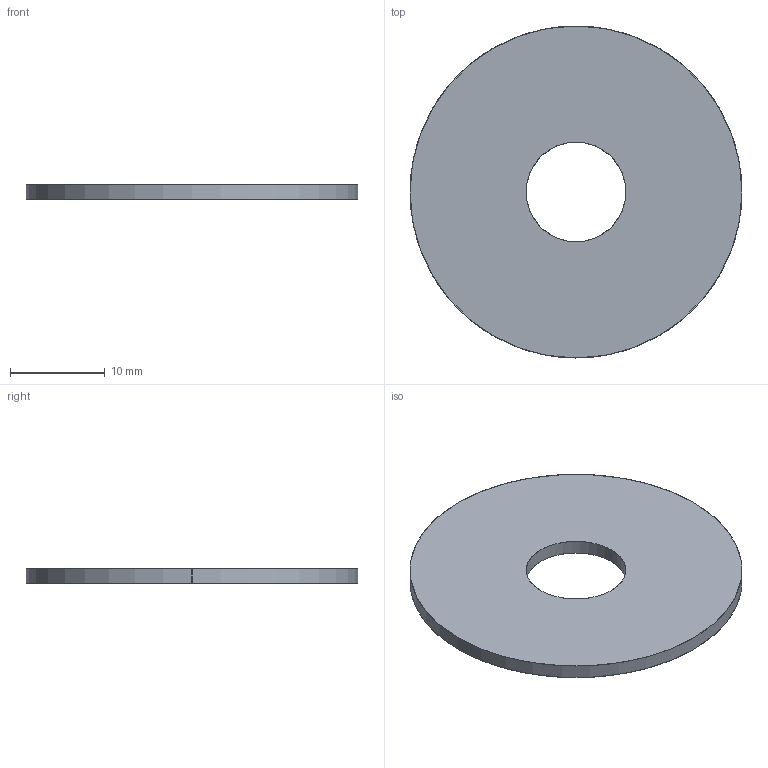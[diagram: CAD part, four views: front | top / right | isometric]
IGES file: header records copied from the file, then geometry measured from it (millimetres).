
Start section: SolidWorks IGES file using analytic representation for surfaces
Global section: file name: C:\Users\liam_\OneDrive\Desktop\Work\Mat Davis Pending 20181125\automotion\P SERIES\P0333.A4_v2\P0333.A4_v2_20181217_IGES\P0333.100-035-A4.igs; native system: SolidWorks 2017; preprocessor: SolidWorks 2017; author: liam_; date: 181217.190918; units: millimetre
Bounding box: 35 x 35 x 1.5 mm (x, y, z)
Surface area: 1965.5 mm2 (no closed solid volume)
Topology: 0 solids, 0 shells, 6 faces, 208 edges, 208 vertices
Faces by surface type: revolution 4, bspline 2
